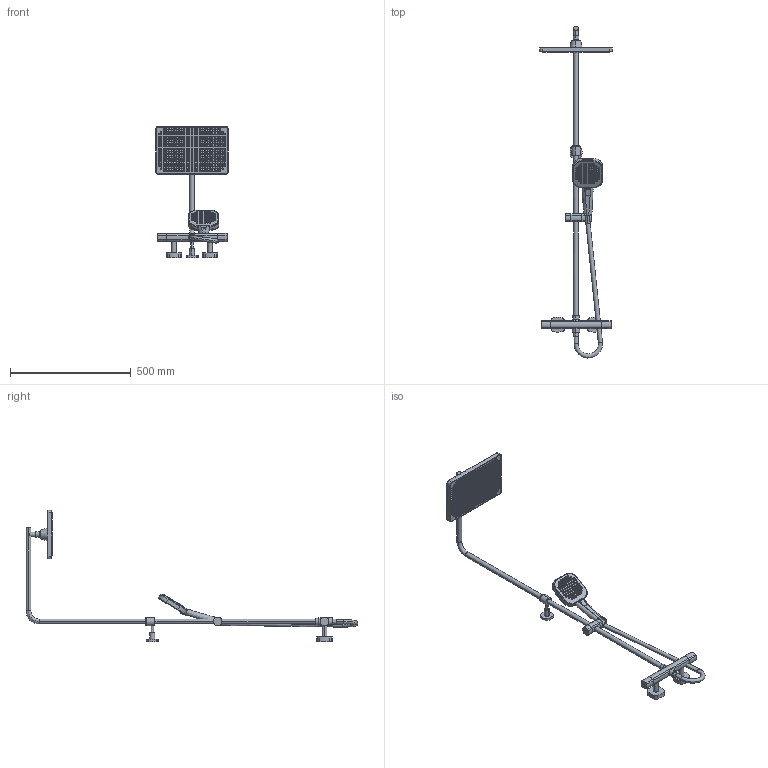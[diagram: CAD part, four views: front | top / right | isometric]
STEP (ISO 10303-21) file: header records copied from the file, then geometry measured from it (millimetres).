
FILE_DESCRIPTION(('FreeCAD Model'),'2;1');
FILE_NAME('Open CASCADE Shape Model','2024-11-19T15:03:42',('Author'),( ''),'Open CASCADE STEP processor 7.6','FreeCAD','Unknown');
FILE_SCHEMA(('AUTOMOTIVE_DESIGN { 1 0 10303 214 1 1 1 1 }'));
Length unit declared in the file: millimetre
Products named in the file (15): TopLevelAssembly; Wyciąganie001; Wyciąganie002; Wyciąganie003; Połączona geometria bryłowa; Wyciągnięcie po ścieżce; Obrót profilu; Połączona geometria bryłowa001; Połączona geometria bryłowa002; Połączona geometria bryłowa003; Połączona geometria bryłowa006; Połączona geometria bryłowa004; Połączona geometria bryłowa005; Połączona geometria bryłowa007; Połączona geometria bryłowa008
Assembly tree (14 placements, depth 3):
  TopLevelAssembly
    Wyciąganie001
    Wyciąganie002
    Wyciąganie003
    Połączona geometria bryłowa
    Wyciągnięcie po ścieżce
    Obrót profilu
    Połączona geometria bryłowa001
    Połączona geometria bryłowa002
    Połączona geometria bryłowa003
    Połączona geometria bryłowa006
      Połączona geometria bryłowa004
      Połączona geometria bryłowa005
    Połączona geometria bryłowa007
    Połączona geometria bryłowa008
Bounding box: 299.39 x 1374.21 x 543.19 mm (x, y, z)
Volume: 2964080.6 mm3; surface area: 653132.9 mm2
Topology: 13 solids, 13 shells, 2052 faces, 4222 edges, 2774 vertices
Faces by surface type: cylinder 1327, plane 677, bspline 48
Entity records: 58555 total; most frequent: CARTESIAN_POINT 12259, DIRECTION 10806, ORIENTED_EDGE 8436, AXIS2_PLACEMENT_3D 4658, EDGE_CURVE 4218, VERTEX_POINT 2774, FACE_BOUND 2634, EDGE_LOOP 2634
